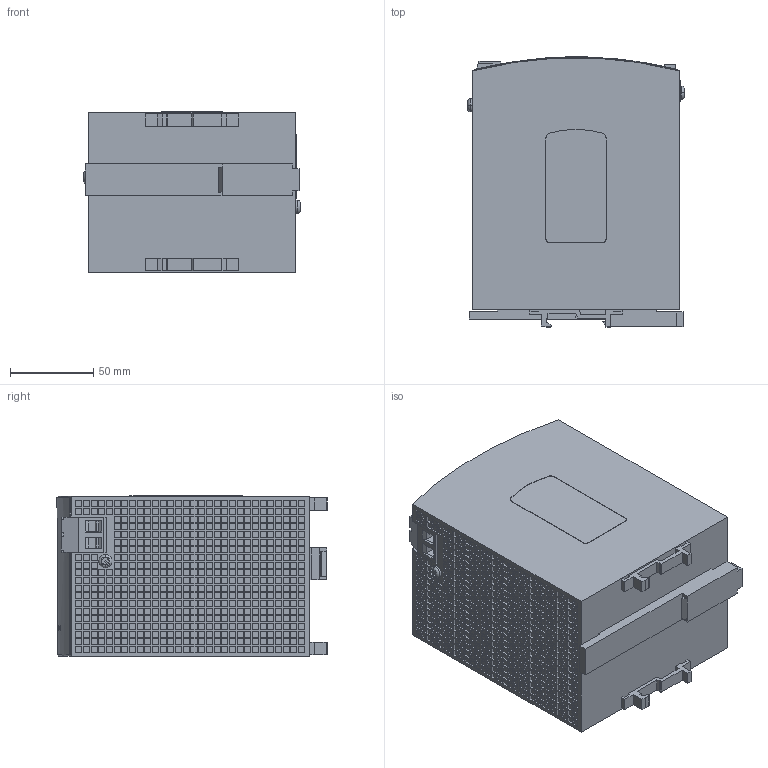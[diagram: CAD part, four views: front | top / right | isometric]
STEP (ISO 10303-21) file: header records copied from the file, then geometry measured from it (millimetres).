
FILE_DESCRIPTION((''),'2;1');
FILE_NAME('10000035514','2012-03-05T',('WJPreisc'),('Rockwell Automation'),'PRO/ENGINEER BY PARAMETRIC TECHNOLOGY CORPORATION, 2010140','PRO/ENGINEER BY PARAMETRIC TECHNOLOGY CORPORATION, 2010140','');
FILE_SCHEMA(('CONFIG_CONTROL_DESIGN'));
Products named in the file (1): 10000035514
Bounding box: 130 x 162 x 96.25 mm (x, y, z)
Volume: 1777181.4 mm3; surface area: 112669.9 mm2
Topology: 1 solids, 1 shells, 6120 faces, 14785 edges, 9818 vertices
Faces by surface type: plane 6070, cylinder 46, torus 4
Entity records: 174747 total; most frequent: CARTESIAN_POINT 30955, ORIENTED_EDGE 29570, DIRECTION 27117, EDGE_CURVE 14785, VECTOR 14613, LINE 14613, VERTEX_POINT 9818, EDGE_LOOP 7283
